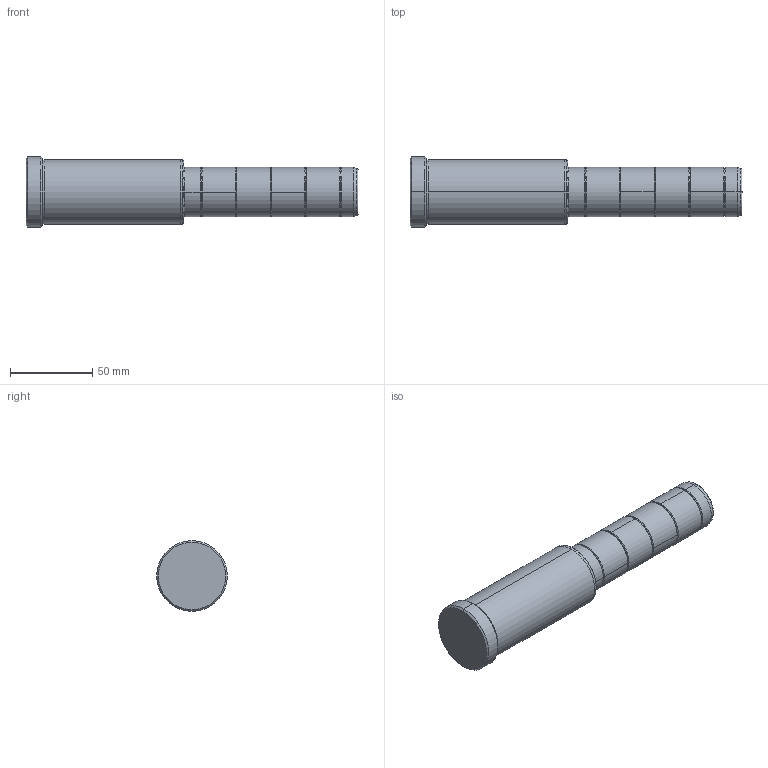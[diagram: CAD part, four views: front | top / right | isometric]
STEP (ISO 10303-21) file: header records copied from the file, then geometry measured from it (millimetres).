
FILE_DESCRIPTION (( 'STEP AP214' ), '1' );
FILE_NAME ('D02_30x96x106.step', '2011-12-26T20:30:13', ( 'Dell' ), ( '' ), 'SwSTEP 2.0', 'SolidWorks 2010', '' );
FILE_SCHEMA (( 'AUTOMOTIVE_DESIGN' ));
Length unit declared in the file: millimetre
Products named in the file (1): D02_30x96x106
Bounding box: 202 x 43 x 43 mm (x, y, z)
Volume: 191842 mm3; surface area: 24734.2 mm2
Topology: 1 solids, 1 shells, 59 faces, 129 edges, 76 vertices
Faces by surface type: bspline 24, cylinder 20, cone 9, plane 6
Entity records: 1914 total; most frequent: CARTESIAN_POINT 712, ORIENTED_EDGE 258, DIRECTION 244, EDGE_CURVE 129, AXIS2_PLACEMENT_3D 108, VERTEX_POINT 76, CIRCLE 72, EDGE_LOOP 63
